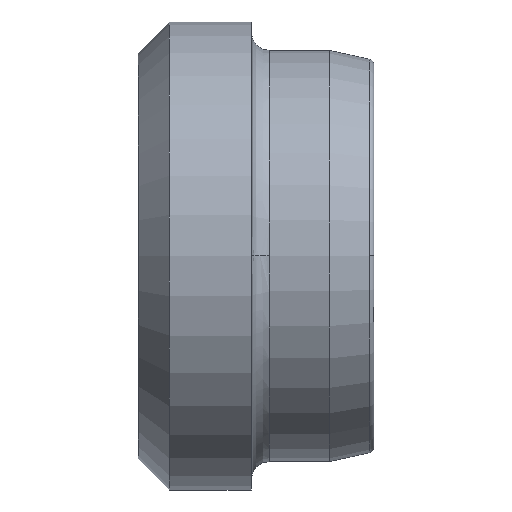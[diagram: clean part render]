
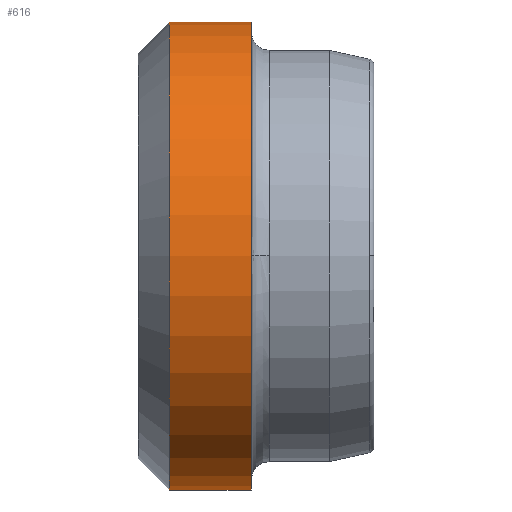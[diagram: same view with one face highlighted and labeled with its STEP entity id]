
A CAD part, top view. The second image highlights one B-rep face of the part: STEP entity #616.
In plain terms, the highlighted cylindrical face has radius 10.5 mm (diameter 21 mm), a partial arc.
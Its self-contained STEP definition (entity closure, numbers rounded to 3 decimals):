
#575=CARTESIAN_POINT('',(-3.287,-3.633,0.0));
#576=DIRECTION('',(1.0,0.0,0.0));
#577=DIRECTION('',(0.0,1.0,0.0));
#578=AXIS2_PLACEMENT_3D('',#575,#576,#577);
#579=CYLINDRICAL_SURFACE('',#578,10.5);
#580=CARTESIAN_POINT('',(-4.425,6.867,0.0));
#581=VERTEX_POINT('',#580);
#582=CARTESIAN_POINT('',(-0.75,6.867,0.0));
#583=VERTEX_POINT('',#582);
#584=CARTESIAN_POINT('',(-4.425,6.867,0.0));
#585=DIRECTION('',(1.0,0.0,0.0));
#586=VECTOR('',#585,3.675);
#587=LINE('',#584,#586);
#588=EDGE_CURVE('',#581,#583,#587,.T.);
#589=ORIENTED_EDGE('',*,*,#588,.F.);
#590=CARTESIAN_POINT('',(-4.425,-14.133,0.));
#591=VERTEX_POINT('',#590);
#592=CARTESIAN_POINT('',(-4.425,-3.633,0.0));
#593=DIRECTION('',(-1.0,0.0,0.0));
#594=DIRECTION('',(0.0,-1.0,0.0));
#595=AXIS2_PLACEMENT_3D('',#592,#593,#594);
#596=CIRCLE('',#595,10.5);
#597=EDGE_CURVE('',#591,#581,#596,.T.);
#598=ORIENTED_EDGE('',*,*,#597,.F.);
#599=CARTESIAN_POINT('',(-0.75,-14.133,0.));
#600=VERTEX_POINT('',#599);
#601=CARTESIAN_POINT('',(-0.75,-14.133,0.));
#602=DIRECTION('',(-1.0,0.0,0.0));
#603=VECTOR('',#602,3.675);
#604=LINE('',#601,#603);
#605=EDGE_CURVE('',#600,#591,#604,.T.);
#606=ORIENTED_EDGE('',*,*,#605,.F.);
#607=CARTESIAN_POINT('',(-0.75,-3.633,0.0));
#608=DIRECTION('',(1.0,0.0,0.0));
#609=DIRECTION('',(0.0,1.0,0.0));
#610=AXIS2_PLACEMENT_3D('',#607,#608,#609);
#611=CIRCLE('',#610,10.5);
#612=EDGE_CURVE('',#583,#600,#611,.T.);
#613=ORIENTED_EDGE('',*,*,#612,.F.);
#614=EDGE_LOOP('',(#589,#598,#606,#613));
#615=FACE_OUTER_BOUND('',#614,.T.);
#616=ADVANCED_FACE('',(#615),#579,.T.);
